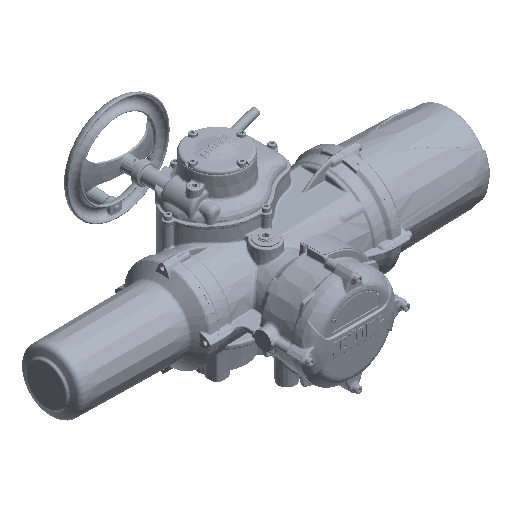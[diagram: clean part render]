
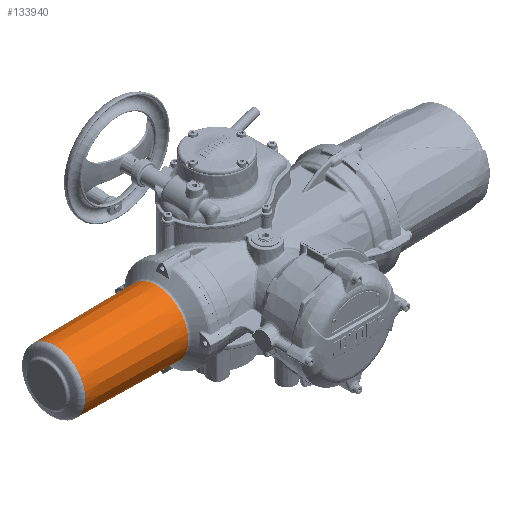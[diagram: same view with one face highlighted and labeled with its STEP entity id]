
A CAD part, isometric view. The second image highlights one B-rep face of the part: STEP entity #133940.
In plain terms, the highlighted conical face has half-angle 0.75 degrees and reference radius 65.5 mm.
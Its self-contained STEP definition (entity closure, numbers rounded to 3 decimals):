
#378=CONICAL_SURFACE('',#140392,65.5,0.013);
#12019=B_SPLINE_CURVE_WITH_KNOTS('',3,(#190916,#190917,#190918,#190919,
#190920,#190921,#190922,#190923,#190924,#190925,#190926,#190927,#190928,
#190929,#190930,#190931,#190932,#190933,#190934,#190935,#190936,#190937,
#190938,#190939,#190940,#190941,#190942,#190943,#190944,#190945),
 .UNSPECIFIED.,.T.,.F.,(1,1,1,1,1,1,1,1,1,1,1,1,1,1,1,1,1,1,1,1,1,1,1,1,
1,1,1,1,1,1,1,1,1,1),(-0.016,-0.013,-0.006,
0.,0.003,0.006,0.01,0.013,
0.016,0.019,0.022,0.026,
0.029,0.032,0.035,0.038,
0.042,0.045,0.051,0.058,
0.064,0.067,0.07,0.074,
0.077,0.08,0.083,0.086,
0.09,0.096,0.102,0.106,
0.109,0.112),.UNSPECIFIED.);
#20840=ORIENTED_EDGE('',*,*,#48359,.T.);
#20841=ORIENTED_EDGE('',*,*,#48358,.T.);
#20842=ORIENTED_EDGE('',*,*,#48357,.F.);
#48357=EDGE_CURVE('',#62305,#62305,#70636,.T.);
#48358=EDGE_CURVE('',#62306,#62306,#12019,.T.);
#48359=EDGE_CURVE('',#62307,#62307,#70637,.F.);
#62305=VERTEX_POINT('',#190819);
#62306=VERTEX_POINT('',#190946);
#62307=VERTEX_POINT('',#190949);
#70636=CIRCLE('',#140391,62.731);
#70637=CIRCLE('',#140393,65.464);
#75933=EDGE_LOOP('',(#20840));
#75934=EDGE_LOOP('',(#20841));
#75935=EDGE_LOOP('',(#20842));
#82707=FACE_BOUND('',#75933,.T.);
#82708=FACE_BOUND('',#75934,.T.);
#82709=FACE_BOUND('',#75935,.T.);
#133940=ADVANCED_FACE('',(#82707,#82708,#82709),#378,.T.);
#140391=AXIS2_PLACEMENT_3D('',#190818,#150804,#150805);
#140392=AXIS2_PLACEMENT_3D('',#190947,#150806,#150807);
#140393=AXIS2_PLACEMENT_3D('',#190948,#150808,#150809);
#150804=DIRECTION('',(-1.,0.,0.));
#150805=DIRECTION('',(0.,0.,1.));
#150806=DIRECTION('',(1.,0.,0.));
#150807=DIRECTION('',(0.,0.,-1.));
#150808=DIRECTION('',(1.,0.,0.));
#150809=DIRECTION('',(0.,0.,-1.));
#190818=CARTESIAN_POINT('',(-393.347,-60.,0.));
#190819=CARTESIAN_POINT('',(-393.347,-60.,62.731));
#190916=CARTESIAN_POINT('',(-261.185,-51.356,-63.957));
#190917=CARTESIAN_POINT('',(-265.153,-47.6,-63.222));
#190918=CARTESIAN_POINT('',(-268.938,-45.634,-62.74));
#190919=CARTESIAN_POINT('',(-272.024,-44.68,-62.47));
#190920=CARTESIAN_POINT('',(-275.207,-44.28,-62.326));
#190921=CARTESIAN_POINT('',(-278.455,-44.439,-62.323));
#190922=CARTESIAN_POINT('',(-281.574,-45.145,-62.455));
#190923=CARTESIAN_POINT('',(-284.565,-46.412,-62.706));
#190924=CARTESIAN_POINT('',(-287.218,-48.163,-63.03));
#190925=CARTESIAN_POINT('',(-289.536,-50.431,-63.388));
#190926=CARTESIAN_POINT('',(-291.318,-53.067,-63.712));
#190927=CARTESIAN_POINT('',(-292.536,-56.078,-63.957));
#190928=CARTESIAN_POINT('',(-293.057,-59.268,-64.067));
#190929=CARTESIAN_POINT('',(-292.86,-62.496,-64.025));
#190930=CARTESIAN_POINT('',(-291.946,-65.617,-63.836));
#190931=CARTESIAN_POINT('',(-289.876,-69.388,-63.44));
#190932=CARTESIAN_POINT('',(-285.928,-73.141,-62.81));
#190933=CARTESIAN_POINT('',(-279.883,-75.598,-62.296));
#190934=CARTESIAN_POINT('',(-274.446,-75.802,-62.317));
#190935=CARTESIAN_POINT('',(-270.242,-74.842,-62.61));
#190936=CARTESIAN_POINT('',(-267.3,-73.596,-62.936));
#190937=CARTESIAN_POINT('',(-264.607,-71.813,-63.335));
#190938=CARTESIAN_POINT('',(-262.339,-69.592,-63.745));
#190939=CARTESIAN_POINT('',(-260.523,-66.905,-64.121));
#190940=CARTESIAN_POINT('',(-259.331,-63.943,-64.39));
#190941=CARTESIAN_POINT('',(-258.799,-60.726,-64.516));
#190942=CARTESIAN_POINT('',(-259.068,-56.411,-64.452));
#190943=CARTESIAN_POINT('',(-261.185,-51.356,-63.957));
#190944=CARTESIAN_POINT('',(-265.153,-47.6,-63.222));
#190945=CARTESIAN_POINT('',(-268.938,-45.634,-62.74));
#190946=CARTESIAN_POINT('',(-266.15,-47.195,-63.111));
#190947=CARTESIAN_POINT('',(-181.857,-60.,0.));
#190948=CARTESIAN_POINT('',(-184.607,-60.,0.));
#190949=CARTESIAN_POINT('',(-184.607,-60.,-65.464));
